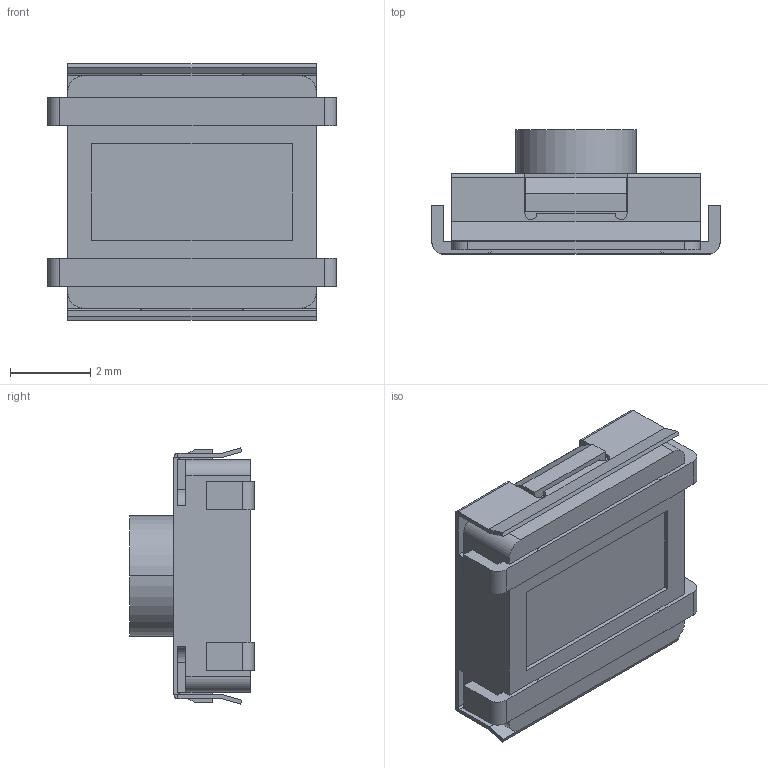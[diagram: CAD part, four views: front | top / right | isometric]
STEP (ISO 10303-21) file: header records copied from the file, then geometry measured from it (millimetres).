
FILE_DESCRIPTION (( 'STEP AP214' ), '1' );
FILE_NAME ('DTSL-62_P.STEP', '2024-07-17T08:14:38', ( '' ), ( '' ), 'SwSTEP 2.0', 'SolidWorks 2017', '' );
FILE_SCHEMA (( 'AUTOMOTIVE_DESIGN' ));
Length unit declared in the file: millimetre
Products named in the file (1): DTSL-62_P
Bounding box: 7.2 x 3.1 x 6.4 mm (x, y, z)
Volume: 77.9 mm3; surface area: 190.2 mm2
Topology: 1 solids, 1 shells, 127 faces, 370 edges, 244 vertices
Faces by surface type: plane 99, cylinder 28
Entity records: 5635 total; most frequent: CARTESIAN_POINT 830, ORIENTED_EDGE 740, DIRECTION 658, EDGE_CURVE 370, VECTOR 290, LINE 290, VERTEX_POINT 244, AXIS2_PLACEMENT_3D 184
